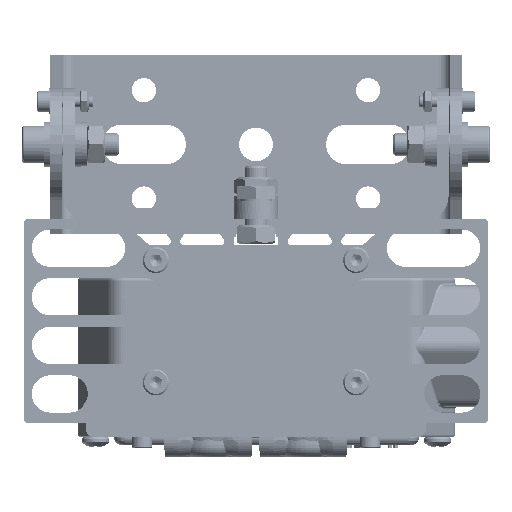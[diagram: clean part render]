
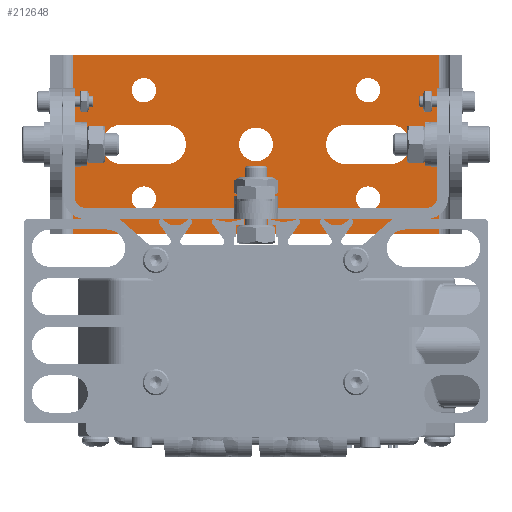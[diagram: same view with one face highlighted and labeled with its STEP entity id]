
A CAD part, front view. The second image highlights one B-rep face of the part: STEP entity #212648.
In plain terms, the highlighted planar face has unit normal (0, -1, 0).
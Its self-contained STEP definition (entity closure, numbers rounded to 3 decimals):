
#211280=CARTESIAN_POINT('',(-26.75,462.,61.766));
#211281=VERTEX_POINT('',#211280);
#211282=CARTESIAN_POINT('',(-30.,462.,61.766));
#211283=DIRECTION('',(0.0,1.0,0.0));
#211284=DIRECTION('',(-1.0,0.0,0.0));
#211285=AXIS2_PLACEMENT_3D('',#211282,#211283,#211284);
#211286=CIRCLE('',#211285,3.25);
#211287=EDGE_CURVE('',#211281,#211281,#211286,.T.);
#211308=CARTESIAN_POINT('',(-26.75,462.,32.766));
#211309=VERTEX_POINT('',#211308);
#211310=CARTESIAN_POINT('',(-30.,462.,32.766));
#211311=DIRECTION('',(0.0,1.0,0.0));
#211312=DIRECTION('',(-1.0,0.0,0.0));
#211313=AXIS2_PLACEMENT_3D('',#211310,#211311,#211312);
#211314=CIRCLE('',#211313,3.25);
#211315=EDGE_CURVE('',#211309,#211309,#211314,.T.);
#211336=CARTESIAN_POINT('',(33.25,462.,32.766));
#211337=VERTEX_POINT('',#211336);
#211338=CARTESIAN_POINT('',(30.,462.,32.766));
#211339=DIRECTION('',(0.0,1.0,0.0));
#211340=DIRECTION('',(-1.0,0.0,0.0));
#211341=AXIS2_PLACEMENT_3D('',#211338,#211339,#211340);
#211342=CIRCLE('',#211341,3.25);
#211343=EDGE_CURVE('',#211337,#211337,#211342,.T.);
#211364=CARTESIAN_POINT('',(33.25,462.,61.766));
#211365=VERTEX_POINT('',#211364);
#211366=CARTESIAN_POINT('',(30.,462.,61.766));
#211367=DIRECTION('',(0.0,1.0,0.0));
#211368=DIRECTION('',(-1.0,0.0,0.0));
#211369=AXIS2_PLACEMENT_3D('',#211366,#211367,#211368);
#211370=CIRCLE('',#211369,3.25);
#211371=EDGE_CURVE('',#211365,#211365,#211370,.T.);
#211998=CARTESIAN_POINT('',(-24.,462.,52.516));
#211999=VERTEX_POINT('',#211998);
#212006=CARTESIAN_POINT('',(-36.,462.,52.516));
#212007=VERTEX_POINT('',#212006);
#212008=CARTESIAN_POINT('',(-36.,462.,52.516));
#212009=DIRECTION('',(1.0,0.0,0.0));
#212010=VECTOR('',#212009,12.0);
#212011=LINE('',#212008,#212010);
#212012=EDGE_CURVE('',#212007,#211999,#212011,.T.);
#212038=CARTESIAN_POINT('',(-36.,462.,42.016));
#212039=VERTEX_POINT('',#212038);
#212040=CARTESIAN_POINT('',(-36.,462.,47.266));
#212041=DIRECTION('',(0.0,1.0,0.0));
#212042=DIRECTION('',(0.0,0.0,1.0));
#212043=AXIS2_PLACEMENT_3D('',#212040,#212041,#212042);
#212044=CIRCLE('',#212043,5.25);
#212045=EDGE_CURVE('',#212039,#212007,#212044,.T.);
#212070=CARTESIAN_POINT('',(-24.,462.,42.016));
#212071=VERTEX_POINT('',#212070);
#212072=CARTESIAN_POINT('',(-24.,462.,42.016));
#212073=DIRECTION('',(-1.0,0.0,0.0));
#212074=VECTOR('',#212073,12.);
#212075=LINE('',#212072,#212074);
#212076=EDGE_CURVE('',#212071,#212039,#212075,.T.);
#212100=CARTESIAN_POINT('',(-24.,462.,47.266));
#212101=DIRECTION('',(0.0,1.0,0.0));
#212102=DIRECTION('',(0.0,0.0,-1.0));
#212103=AXIS2_PLACEMENT_3D('',#212100,#212101,#212102);
#212104=CIRCLE('',#212103,5.25);
#212105=EDGE_CURVE('',#211999,#212071,#212104,.T.);
#212126=CARTESIAN_POINT('',(36.0,462.,52.516));
#212127=VERTEX_POINT('',#212126);
#212134=CARTESIAN_POINT('',(24.0,462.,52.516));
#212135=VERTEX_POINT('',#212134);
#212136=CARTESIAN_POINT('',(24.0,462.,52.516));
#212137=DIRECTION('',(1.0,0.0,0.0));
#212138=VECTOR('',#212137,12.0);
#212139=LINE('',#212136,#212138);
#212140=EDGE_CURVE('',#212135,#212127,#212139,.T.);
#212166=CARTESIAN_POINT('',(24.0,462.,42.016));
#212167=VERTEX_POINT('',#212166);
#212168=CARTESIAN_POINT('',(24.0,462.,47.266));
#212169=DIRECTION('',(0.0,1.0,0.0));
#212170=DIRECTION('',(0.0,0.0,1.0));
#212171=AXIS2_PLACEMENT_3D('',#212168,#212169,#212170);
#212172=CIRCLE('',#212171,5.25);
#212173=EDGE_CURVE('',#212167,#212135,#212172,.T.);
#212198=CARTESIAN_POINT('',(36.0,462.,42.016));
#212199=VERTEX_POINT('',#212198);
#212200=CARTESIAN_POINT('',(36.0,462.,42.016));
#212201=DIRECTION('',(-1.0,0.0,0.0));
#212202=VECTOR('',#212201,12.0);
#212203=LINE('',#212200,#212202);
#212204=EDGE_CURVE('',#212199,#212167,#212203,.T.);
#212228=CARTESIAN_POINT('',(36.0,462.,47.266));
#212229=DIRECTION('',(0.0,1.0,0.0));
#212230=DIRECTION('',(0.0,0.0,-1.0));
#212231=AXIS2_PLACEMENT_3D('',#212228,#212229,#212230);
#212232=CIRCLE('',#212231,5.25);
#212233=EDGE_CURVE('',#212127,#212199,#212232,.T.);
#212255=CARTESIAN_POINT('',(4.5,462.,47.266));
#212256=VERTEX_POINT('',#212255);
#212257=CARTESIAN_POINT('',(0.,462.,47.266));
#212258=DIRECTION('',(0.0,1.0,0.0));
#212259=DIRECTION('',(-1.0,0.0,0.0));
#212260=AXIS2_PLACEMENT_3D('',#212257,#212258,#212259);
#212261=CIRCLE('',#212260,4.5);
#212262=EDGE_CURVE('',#212256,#212256,#212261,.T.);
#212335=CARTESIAN_POINT('',(-49.,462.,71.266));
#212336=VERTEX_POINT('',#212335);
#212361=CARTESIAN_POINT('',(-49.,462.,23.266));
#212362=VERTEX_POINT('',#212361);
#212417=CARTESIAN_POINT('',(-49.,462.,71.266));
#212418=DIRECTION('',(0.0,0.0,-1.0));
#212419=VECTOR('',#212418,48.);
#212420=LINE('',#212417,#212419);
#212421=EDGE_CURVE('',#212336,#212362,#212420,.T.);
#212466=CARTESIAN_POINT('',(49.,462.0,23.266));
#212467=VERTEX_POINT('',#212466);
#212492=CARTESIAN_POINT('',(49.,462.0,71.266));
#212493=VERTEX_POINT('',#212492);
#212517=CARTESIAN_POINT('',(49.,462.0,23.266));
#212518=DIRECTION('',(0.0,0.0,1.0));
#212519=VECTOR('',#212518,48.);
#212520=LINE('',#212517,#212519);
#212521=EDGE_CURVE('',#212467,#212493,#212520,.T.);
#212540=CARTESIAN_POINT('',(-49.,462.,71.266));
#212541=DIRECTION('',(1.0,0.0,0.0));
#212542=VECTOR('',#212541,98.0);
#212543=LINE('',#212540,#212542);
#212544=EDGE_CURVE('',#212336,#212493,#212543,.T.);
#212599=CARTESIAN_POINT('',(49.0,462.0,23.266));
#212600=DIRECTION('',(-1.0,0.0,0.0));
#212601=VECTOR('',#212600,98.0);
#212602=LINE('',#212599,#212601);
#212603=EDGE_CURVE('',#212467,#212362,#212602,.T.);
#212610=CARTESIAN_POINT('',(0.,462.,47.266));
#212611=DIRECTION('',(0.0,-1.0,0.0));
#212612=DIRECTION('',(1.0,0.0,0.0));
#212613=AXIS2_PLACEMENT_3D('',#212610,#212611,#212612);
#212614=PLANE('',#212613);
#212615=ORIENTED_EDGE('',*,*,#212521,.T.);
#212616=ORIENTED_EDGE('',*,*,#212544,.F.);
#212617=ORIENTED_EDGE('',*,*,#212421,.T.);
#212618=ORIENTED_EDGE('',*,*,#212603,.F.);
#212619=EDGE_LOOP('',(#212615,#212616,#212617,#212618));
#212620=FACE_OUTER_BOUND('',#212619,.T.);
#212621=ORIENTED_EDGE('',*,*,#211287,.T.);
#212622=EDGE_LOOP('',(#212621));
#212623=FACE_BOUND('',#212622,.T.);
#212624=ORIENTED_EDGE('',*,*,#211315,.T.);
#212625=EDGE_LOOP('',(#212624));
#212626=FACE_BOUND('',#212625,.T.);
#212627=ORIENTED_EDGE('',*,*,#211343,.T.);
#212628=EDGE_LOOP('',(#212627));
#212629=FACE_BOUND('',#212628,.T.);
#212630=ORIENTED_EDGE('',*,*,#211371,.T.);
#212631=EDGE_LOOP('',(#212630));
#212632=FACE_BOUND('',#212631,.T.);
#212633=ORIENTED_EDGE('',*,*,#212076,.T.);
#212634=ORIENTED_EDGE('',*,*,#212045,.T.);
#212635=ORIENTED_EDGE('',*,*,#212012,.T.);
#212636=ORIENTED_EDGE('',*,*,#212105,.T.);
#212637=EDGE_LOOP('',(#212633,#212634,#212635,#212636));
#212638=FACE_BOUND('',#212637,.T.);
#212639=ORIENTED_EDGE('',*,*,#212204,.T.);
#212640=ORIENTED_EDGE('',*,*,#212173,.T.);
#212641=ORIENTED_EDGE('',*,*,#212140,.T.);
#212642=ORIENTED_EDGE('',*,*,#212233,.T.);
#212643=EDGE_LOOP('',(#212639,#212640,#212641,#212642));
#212644=FACE_BOUND('',#212643,.T.);
#212645=ORIENTED_EDGE('',*,*,#212262,.T.);
#212646=EDGE_LOOP('',(#212645));
#212647=FACE_BOUND('',#212646,.T.);
#212648=ADVANCED_FACE('',(#212620,#212623,#212626,#212629,#212632,#212638,#212644,#212647),#212614,.T.);
